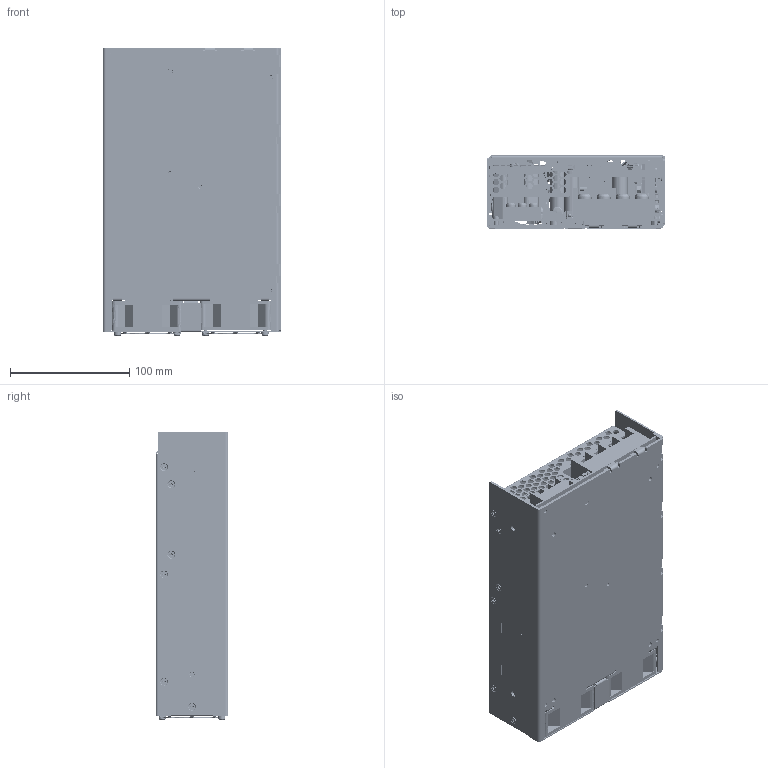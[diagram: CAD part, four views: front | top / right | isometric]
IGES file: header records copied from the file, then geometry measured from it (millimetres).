
Start section: SolidWorks IGES file using analytic representation for surfaces
Global section: file name: C:\RnD\PRODUCT\SHP1000\SOLIDWORKS REV B - MODIFIED\WEB MODEL\SHP1000PSXX.IGS; native system: SolidWorks 2010; preprocessor: SolidWorks 2010; author: Leonard Torio; date: 101103.135802; units: millimetre
Bounding box: 149.8 x 61 x 242.64 mm (x, y, z)
Surface area: 772950.7 mm2 (no closed solid volume)
Topology: 0 solids, 0 shells, 11156 faces, 108600 edges, 108548 vertices
Faces by surface type: bspline 7860, revolution 3296
